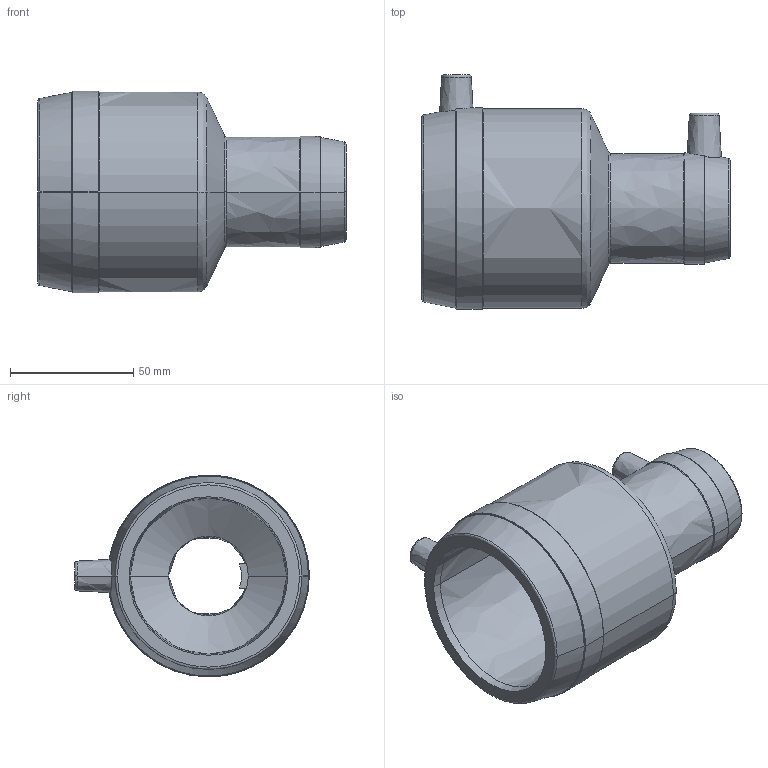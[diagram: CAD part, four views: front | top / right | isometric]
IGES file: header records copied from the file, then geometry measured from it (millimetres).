
Start section:  PTC IGES file: mr_d063-032_01.igs
Global section: file name: mr_d063-032_01.igs; native system: Pro/ENGINEER by Parametric Technology Corporation; preprocessor: 2011490; author: mtunjic; organization: Unknown; date: 20130816.151349; units: millimetre
Bounding box: 125 x 95.15 x 81.8 mm (x, y, z)
Surface area: 51437.5 mm2 (no closed solid volume)
Topology: 0 solids, 0 shells, 196 faces, 978 edges, 978 vertices
Faces by surface type: bspline 196
